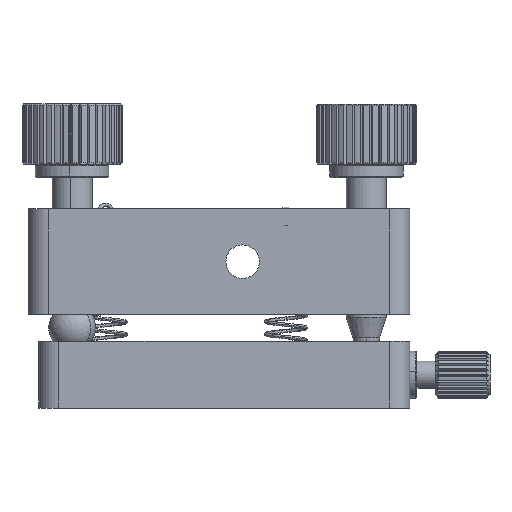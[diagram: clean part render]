
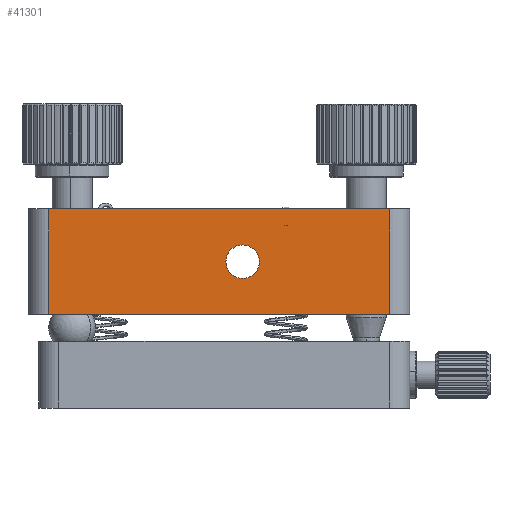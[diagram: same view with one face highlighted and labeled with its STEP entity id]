
A CAD part, front view. The second image highlights one B-rep face of the part: STEP entity #41301.
In plain terms, the highlighted planar face has unit normal (0, -1, 0).
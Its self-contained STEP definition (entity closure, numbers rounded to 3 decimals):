
#208 = EDGE_LOOP ( 'NONE', ( #10590, #10503, #10588, #10567 ) ) ;
#227 = EDGE_LOOP ( 'NONE', ( #10650, #10542 ) ) ;
#1083 = AXIS2_PLACEMENT_3D ( 'NONE', #17841, #17851, #17852 ) ;
#4605 = EDGE_CURVE ( 'NONE', #33340, #33341, #46499, .T. ) ;
#4679 = EDGE_CURVE ( 'NONE', #32789, #33272, #46555, .T. ) ;
#8814 = CARTESIAN_POINT ( 'NONE',  ( 22.734, -29.403, -7.9 ) ) ;
#8826 = CARTESIAN_POINT ( 'NONE',  ( -28.266, -29.403, -7.9 ) ) ;
#9419 = CARTESIAN_POINT ( 'NONE',  ( -28.266, -29.403, 7.9 ) ) ;
#9421 = CARTESIAN_POINT ( 'NONE',  ( 22.734, -29.403, 7.9 ) ) ;
#9489 = CARTESIAN_POINT ( 'NONE',  ( 0.734, -29.403, -2.5 ) ) ;
#9490 = CARTESIAN_POINT ( 'NONE',  ( 0.734, -29.403, 2.5 ) ) ;
#10503 = ORIENTED_EDGE ( 'NONE', *, *, #4679, .T. ) ;
#10542 = ORIENTED_EDGE ( 'NONE', *, *, #4605, .T. ) ;
#10567 = ORIENTED_EDGE ( 'NONE', *, *, #15886, .T. ) ;
#10588 = ORIENTED_EDGE ( 'NONE', *, *, #15764, .F. ) ;
#10590 = ORIENTED_EDGE ( 'NONE', *, *, #15600, .T. ) ;
#10650 = ORIENTED_EDGE ( 'NONE', *, *, #15615, .T. ) ;
#11516 = CARTESIAN_POINT ( 'NONE',  ( 0.734, -29.403, 0. ) ) ;
#11517 = DIRECTION ( 'NONE',  ( 0., 1., 0. ) ) ;
#11518 = DIRECTION ( 'NONE',  ( 0., 0., 1. ) ) ;
#11641 = CARTESIAN_POINT ( 'NONE',  ( 22.734, -29.403, 7.9 ) ) ;
#11790 = DIRECTION ( 'NONE',  ( 0., 0., 1. ) ) ;
#12922 = CARTESIAN_POINT ( 'NONE',  ( -31.266, -29.403, -7.9 ) ) ;
#12931 = DIRECTION ( 'NONE',  ( 1., 0., 0. ) ) ;
#12977 = CARTESIAN_POINT ( 'NONE',  ( 0.734, -29.403, 0. ) ) ;
#12978 = DIRECTION ( 'NONE',  ( 0., 1., 0. ) ) ;
#12979 = DIRECTION ( 'NONE',  ( 0., 0., 1. ) ) ;
#13689 = CARTESIAN_POINT ( 'NONE',  ( -31.266, -29.403, 7.9 ) ) ;
#13690 = DIRECTION ( 'NONE',  ( 1., 0., 0. ) ) ;
#14234 = CARTESIAN_POINT ( 'NONE',  ( -28.266, -29.403, 7.9 ) ) ;
#14235 = DIRECTION ( 'NONE',  ( 0., 0., -1. ) ) ;
#15600 = EDGE_CURVE ( 'NONE', #32798, #32789, #46651, .T. ) ;
#15615 = EDGE_CURVE ( 'NONE', #33341, #33340, #46675, .T. ) ;
#15764 = EDGE_CURVE ( 'NONE', #33270, #33272, #46874, .T. ) ;
#15886 = EDGE_CURVE ( 'NONE', #33270, #32798, #47036, .T. ) ;
#17841 = CARTESIAN_POINT ( 'NONE',  ( -31.266, -29.403, 7.9 ) ) ;
#17849 = PLANE ( 'NONE',  #1083 ) ;
#17851 = DIRECTION ( 'NONE',  ( 0., 1., 0. ) ) ;
#17852 = DIRECTION ( 'NONE',  ( 0., 0., 1. ) ) ;
#18730 = FACE_OUTER_BOUND ( 'NONE', #208, .T. ) ;
#18735 = FACE_BOUND ( 'NONE', #227, .T. ) ;
#32789 = VERTEX_POINT ( 'NONE', #8814 ) ;
#32798 = VERTEX_POINT ( 'NONE', #8826 ) ;
#33270 = VERTEX_POINT ( 'NONE', #9419 ) ;
#33272 = VERTEX_POINT ( 'NONE', #9421 ) ;
#33340 = VERTEX_POINT ( 'NONE', #9489 ) ;
#33341 = VERTEX_POINT ( 'NONE', #9490 ) ;
#41301 = ADVANCED_FACE ( 'NONE', ( #18735, #18730 ), #17849, .F. ) ;
#46499 = CIRCLE ( 'NONE', #52299, 2.5 ) ;
#46555 = LINE ( 'NONE', #11641, #46559 ) ;
#46559 = VECTOR ( 'NONE', #11790, 1000. ) ;
#46651 = LINE ( 'NONE', #12922, #46656 ) ;
#46656 = VECTOR ( 'NONE', #12931, 1000. ) ;
#46675 = CIRCLE ( 'NONE', #52353, 2.5 ) ;
#46874 = LINE ( 'NONE', #13689, #46876 ) ;
#46876 = VECTOR ( 'NONE', #13690, 1000. ) ;
#47036 = LINE ( 'NONE', #14234, #47039 ) ;
#47039 = VECTOR ( 'NONE', #14235, 1000. ) ;
#52299 = AXIS2_PLACEMENT_3D ( 'NONE', #11516, #11517, #11518 ) ;
#52353 = AXIS2_PLACEMENT_3D ( 'NONE', #12977, #12978, #12979 ) ;
